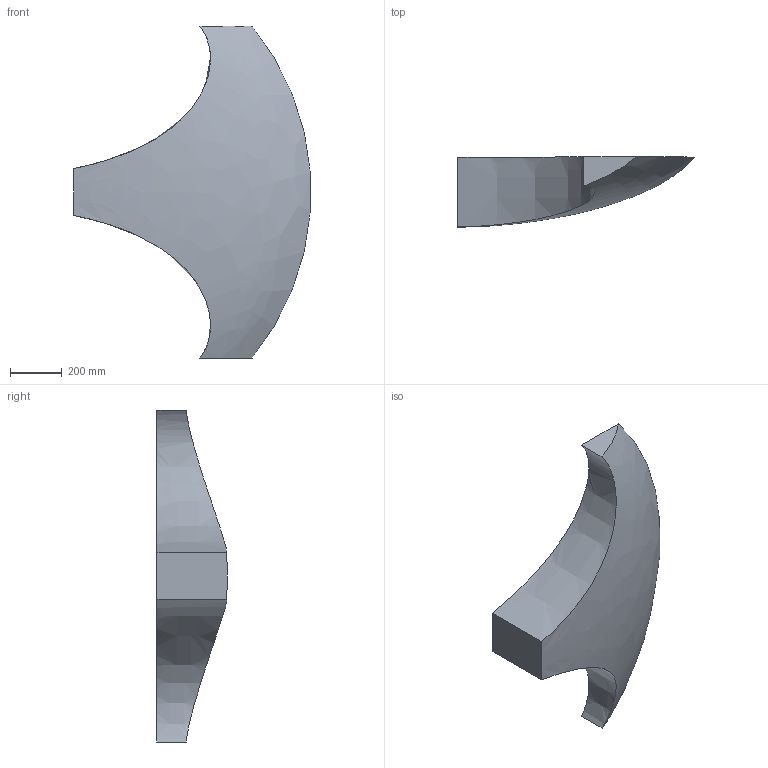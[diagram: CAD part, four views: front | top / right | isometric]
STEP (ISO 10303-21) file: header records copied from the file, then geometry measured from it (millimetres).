
FILE_DESCRIPTION((''),'2;1');
FILE_NAME('PAV_125_180','2017-07-21T',('ndaviden'),(''),'PRO/ENGINEER BY PARAMETRIC TECHNOLOGY CORPORATION, 2015110','PRO/ENGINEER BY PARAMETRIC TECHNOLOGY CORPORATION, 2015110','');
FILE_SCHEMA(('AP203_CONFIGURATION_CONTROLLED_3D_DESIGN_OF_MECHANICAL_PARTS_AND_ASSEMBLIES_MIM_LF { 1 0 10303 403 2 1 2 }'));
Length unit declared in the file: millimetre
Products named in the file (1): PAV_125_180
Bounding box: 912.09 x 270.07 x 1280 mm (x, y, z)
Volume: 93397473.2 mm3; surface area: 1750401.5 mm2
Topology: 1 solids, 1 shells, 7 faces, 15 edges, 10 vertices
Faces by surface type: plane 4, extrusion 2, revolution 1
Entity records: 1767 total; most frequent: CARTESIAN_POINT 1554, ORIENTED_EDGE 30, DIRECTION 20, COLOUR_RGB 19, EDGE_CURVE 15, VERTEX_POINT 10, B_SPLINE_CURVE_WITH_KNOTS 10, VECTOR 9
